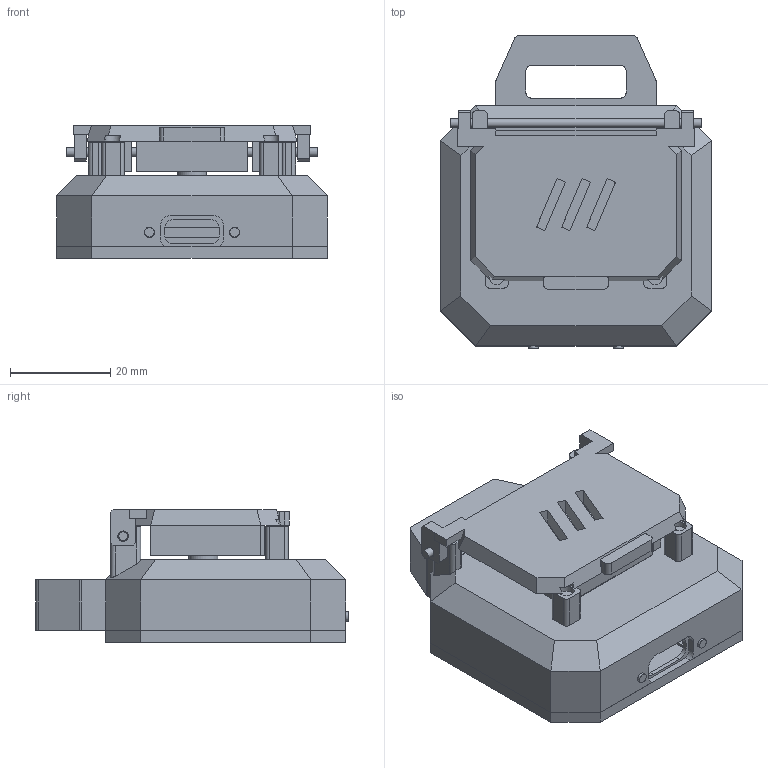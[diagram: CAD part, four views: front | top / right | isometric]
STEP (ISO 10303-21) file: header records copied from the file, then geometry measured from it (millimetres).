
FILE_DESCRIPTION(('Open CASCADE Model'),'2;1');
FILE_NAME('Open CASCADE Shape Model','2026-09-30T20:51:50',('Author'),( 'Open CASCADE'),'Open CASCADE STEP processor 7.9','Open CASCADE 7.9' ,'Unknown');
FILE_SCHEMA(('AUTOMOTIVE_DESIGN { 1 0 10303 214 1 1 1 1 }'));
Length unit declared in the file: millimetre
Products named in the file (9): fef9dc02-bcff-11f1-a0bf-6319a275829e; upper_shell; bottom_chassis; keycap_oem; accent_halo; lightguides; flip_shield_closed; xiao_locking_wedge; filament_hinge_pin
Assembly tree (8 placements, depth 2):
  fef9dc02-bcff-11f1-a0bf-6319a275829e
    upper_shell
    bottom_chassis
    keycap_oem
    accent_halo
    lightguides
    flip_shield_closed
    xiao_locking_wedge
    filament_hinge_pin
Bounding box: 54 x 62.5 x 26.5 mm (x, y, z)
Volume: 24966.9 mm3; surface area: 24930.6 mm2
Topology: 8 solids, 8 shells, 507 faces, 1342 edges, 886 vertices
Faces by surface type: plane 357, cylinder 74, bspline 74, cone 2
Full cylindrical faces by diameter (mm): 1.75 x1, 1.9 x2, 2 x2, 2.1 x4, 3.15 x2, 3.4 x6, 5.8 x1, 7.2 x2
Entity records: 34625 total; most frequent: CARTESIAN_POINT 8788, DIRECTION 4236, LINE 2970, VECTOR 2970, ORIENTED_EDGE 2684, PCURVE 2684, DEFINITIONAL_REPRESENTATION 2684, EDGE_CURVE 1342
